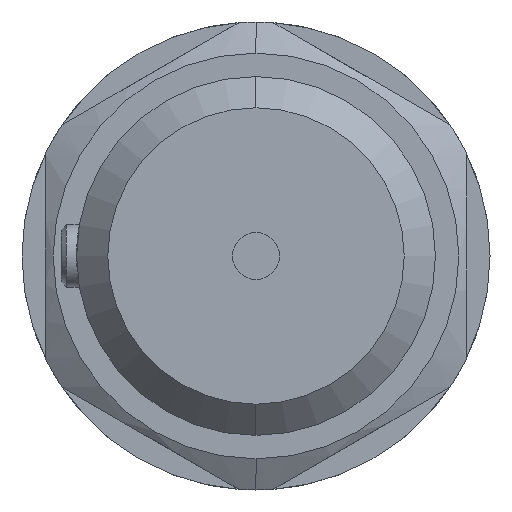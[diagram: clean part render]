
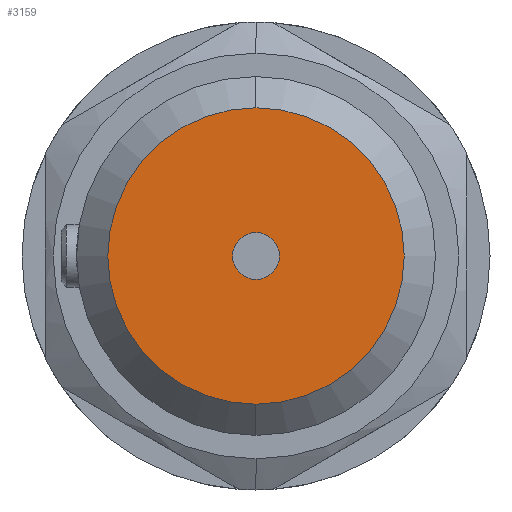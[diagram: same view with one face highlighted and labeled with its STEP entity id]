
A CAD part, left-side view. The second image highlights one B-rep face of the part: STEP entity #3159.
In plain terms, the highlighted planar face has unit normal (-1, 0, 0).
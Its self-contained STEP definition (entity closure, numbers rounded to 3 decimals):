
#140 = CARTESIAN_POINT ( 'NONE',  ( -22., 0., 0. ) ) ;
#331 = AXIS2_PLACEMENT_3D ( 'NONE', #5500, #355, #2695 ) ;
#355 = DIRECTION ( 'NONE',  ( -1., 0., 0. ) ) ;
#412 = ORIENTED_EDGE ( 'NONE', *, *, #1216, .T. ) ;
#463 = VERTEX_POINT ( 'NONE', #2471 ) ;
#608 = CARTESIAN_POINT ( 'NONE',  ( -22., 0., 1.5 ) ) ;
#624 = FACE_OUTER_BOUND ( 'NONE', #3630, .T. ) ;
#996 = CARTESIAN_POINT ( 'NONE',  ( -22., 0., 9.5 ) ) ;
#1132 = CARTESIAN_POINT ( 'NONE',  ( -22., 0., 0. ) ) ;
#1144 = CARTESIAN_POINT ( 'NONE',  ( -22., 0., 0. ) ) ;
#1216 = EDGE_CURVE ( 'NONE', #2031, #4343, #1380, .T. ) ;
#1380 = CIRCLE ( 'NONE', #331, 9.5 ) ;
#1476 = DIRECTION ( 'NONE',  ( 1., 0., 0. ) ) ;
#1513 = CIRCLE ( 'NONE', #2272, 1.5 ) ;
#1531 = DIRECTION ( 'NONE',  ( 0., 0., -1. ) ) ;
#1791 = EDGE_CURVE ( 'NONE', #4343, #2031, #4460, .T. ) ;
#1949 = DIRECTION ( 'NONE',  ( 1., 0., 0. ) ) ;
#2031 = VERTEX_POINT ( 'NONE', #5599 ) ;
#2044 = PLANE ( 'NONE',  #3950 ) ;
#2117 = DIRECTION ( 'NONE',  ( 0., 0., -1. ) ) ;
#2126 = ORIENTED_EDGE ( 'NONE', *, *, #2350, .T. ) ;
#2132 = DIRECTION ( 'NONE',  ( -1., 0., 0. ) ) ;
#2272 = AXIS2_PLACEMENT_3D ( 'NONE', #1132, #2989, #2117 ) ;
#2350 = EDGE_CURVE ( 'NONE', #463, #4185, #1513, .T. ) ;
#2471 = CARTESIAN_POINT ( 'NONE',  ( -22., 0., -1.5 ) ) ;
#2695 = DIRECTION ( 'NONE',  ( 0., 0., -1. ) ) ;
#2944 = DIRECTION ( 'NONE',  ( 0., 0., -1. ) ) ;
#2989 = DIRECTION ( 'NONE',  ( 1., 0., 0. ) ) ;
#2999 = EDGE_CURVE ( 'NONE', #4185, #463, #5347, .T. ) ;
#3074 = ORIENTED_EDGE ( 'NONE', *, *, #2999, .T. ) ;
#3159 = ADVANCED_FACE ( 'NONE', ( #624, #5172 ), #2044, .F. ) ;
#3403 = ORIENTED_EDGE ( 'NONE', *, *, #1791, .T. ) ;
#3630 = EDGE_LOOP ( 'NONE', ( #412, #3403 ) ) ;
#3847 = CARTESIAN_POINT ( 'NONE',  ( -22., 0., 0. ) ) ;
#3850 = DIRECTION ( 'NONE',  ( 0., 0., -1. ) ) ;
#3950 = AXIS2_PLACEMENT_3D ( 'NONE', #3847, #1949, #1531 ) ;
#4185 = VERTEX_POINT ( 'NONE', #608 ) ;
#4343 = VERTEX_POINT ( 'NONE', #996 ) ;
#4460 = CIRCLE ( 'NONE', #4747, 9.5 ) ;
#4673 = EDGE_LOOP ( 'NONE', ( #2126, #3074 ) ) ;
#4747 = AXIS2_PLACEMENT_3D ( 'NONE', #1144, #2132, #2944 ) ;
#4949 = AXIS2_PLACEMENT_3D ( 'NONE', #140, #1476, #3850 ) ;
#5172 = FACE_BOUND ( 'NONE', #4673, .T. ) ;
#5347 = CIRCLE ( 'NONE', #4949, 1.5 ) ;
#5500 = CARTESIAN_POINT ( 'NONE',  ( -22., 0., 0. ) ) ;
#5599 = CARTESIAN_POINT ( 'NONE',  ( -22., 0., -9.5 ) ) ;
